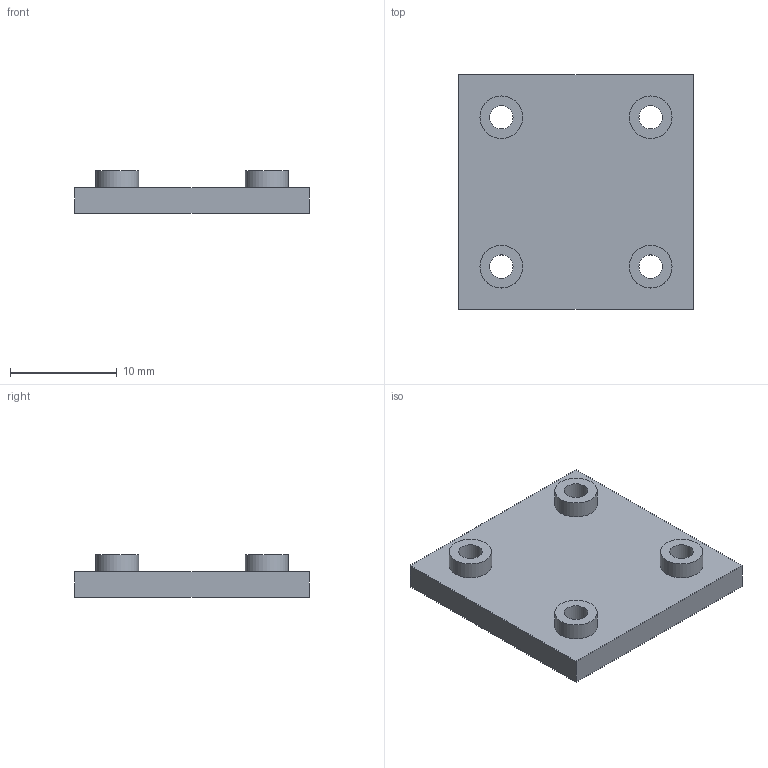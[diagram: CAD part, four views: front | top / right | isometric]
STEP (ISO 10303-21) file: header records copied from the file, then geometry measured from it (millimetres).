
FILE_DESCRIPTION(('FreeCAD Model'),'2;1');
FILE_NAME('Open CASCADE Shape Model','2026-09-19T18:07:28',('FreeCAD'),( 'FreeCAD'),'Open CASCADE STEP processor 7.8','FreeCAD','Unknown');
FILE_SCHEMA(('AUTOMOTIVE_DESIGN { 1 0 10303 214 1 1 1 1 }'));
Length unit declared in the file: millimetre
Products named in the file (1): Open CASCADE STEP translator 7.8 7
Bounding box: 22 x 22 x 4 mm (x, y, z)
Volume: 1181.2 mm3; surface area: 1339.8 mm2
Topology: 1 solids, 1 shells, 18 faces, 36 edges, 24 vertices
Faces by surface type: plane 10, cylinder 8
Full cylindrical faces by diameter (mm): 2.2 x4, 4 x4
Entity records: 502 total; most frequent: DIRECTION 90, CARTESIAN_POINT 79, ORIENTED_EDGE 72, EDGE_CURVE 36, AXIS2_PLACEMENT_3D 35, FACE_BOUND 30, EDGE_LOOP 30, VERTEX_POINT 24
